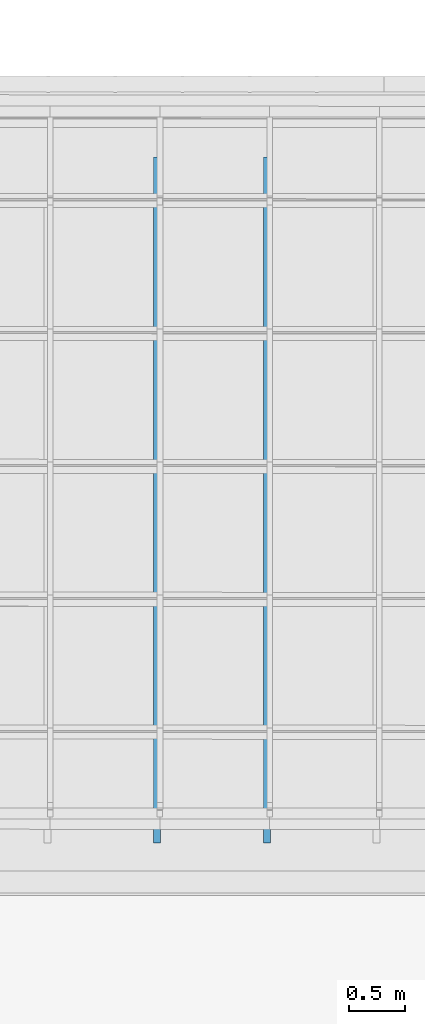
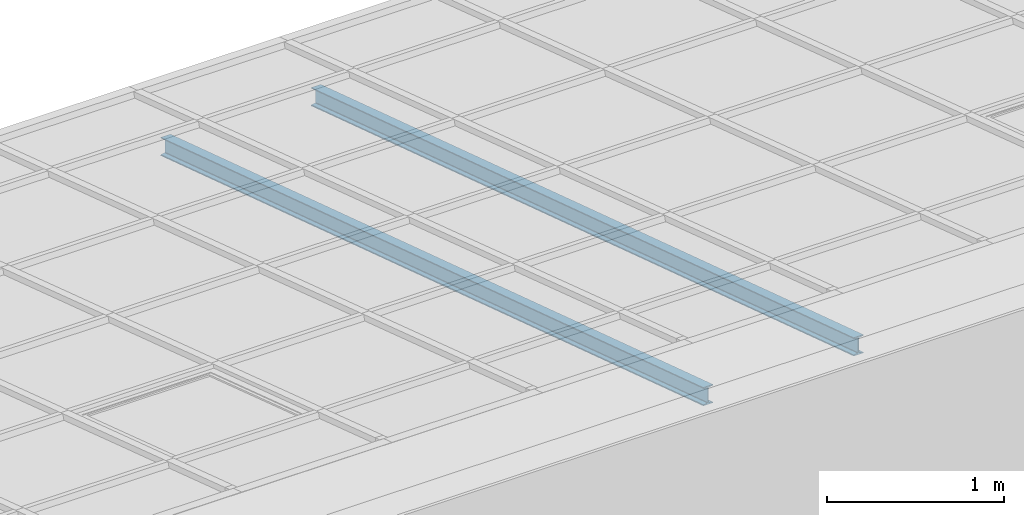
# One storey, part 6 of 47: 2 beams.
"""IFC2X3 building model written with IfcOpenShell, lengths in millimetres."""

from ifc_helpers import new_model, entity, si_unit, converted_unit, derived_unit, money_unit, point, direction, frame, frame_2d, origin_with_axes, place, context, subcontext, project, spatial, polyline, circle_curve, parameter, trimmed, segment, composite_curve, outline, extrude, clip, halfspace, material, type_object, element, save


model = new_model("IFC2X3")

# Units and contexts
model_context = context("Model", 3, precision=1e-05, world=origin_with_axes(), true_north=direction((0.0, 1.0)))
body_context = subcontext(model_context, "Body", "Model", "MODEL_VIEW")
ifc_project = project(units=[si_unit("LENGTHUNIT", "METRE", prefix="MILLI"), si_unit("AREAUNIT", "SQUARE_METRE"), si_unit("VOLUMEUNIT", "CUBIC_METRE"), converted_unit("PLANEANGLEUNIT", "DEGREE", entity("IfcPlaneAngleMeasure", 0.0174532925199), si_unit("PLANEANGLEUNIT", "RADIAN"), dimensions=[0, 0, 0, 0, 0, 0, 0]), si_unit("SOLIDANGLEUNIT", "STERADIAN"), money_unit("EUR"), converted_unit("TIMEUNIT", "Year", entity("IfcTimeMeasure", 31556926.0), si_unit("TIMEUNIT", "SECOND"), dimensions=[0, 0, 1, 0, 0, 0, 0]), si_unit("MASSUNIT", "GRAM", prefix="KILO"), si_unit("THERMODYNAMICTEMPERATUREUNIT", "DEGREE_CELSIUS"), si_unit("LUMINOUSINTENSITYUNIT", "LUMEN"), si_unit("ENERGYUNIT", "JOULE", prefix="MEGA"), derived_unit("THERMALCONDUCTANCEUNIT", [(si_unit("POWERUNIT", "WATT"), 1), (si_unit("LENGTHUNIT", "METRE"), -1), (si_unit("THERMODYNAMICTEMPERATUREUNIT", "KELVIN"), -1)]), derived_unit("SPECIFICHEATCAPACITYUNIT", [(si_unit("ENERGYUNIT", "JOULE"), 1), (si_unit("MASSUNIT", "GRAM", prefix="KILO"), -1), (si_unit("THERMODYNAMICTEMPERATUREUNIT", "KELVIN"), -1)]), derived_unit("MASSDENSITYUNIT", [(si_unit("MASSUNIT", "GRAM", prefix="KILO"), 1), (si_unit("VOLUMEUNIT", "CUBIC_METRE"), -1)])], contexts=[model_context])

# Site, building, storey
site_placement = place(None, origin_with_axes())
site = spatial("IfcSite", under=ifc_project, at=site_placement, Name="Site", CompositionType="ELEMENT")
building_placement = place(site_placement, origin_with_axes())
building = spatial("IfcBuilding", under=site, at=building_placement, Name="Building", CompositionType="ELEMENT")
storey_placement = place(building_placement, frame((0.0, 0.0, 6000.0), z_axis=(0.0, 0.0, 1.0), x_axis=(1.0, 0.0, 0.0)))
storey = spatial("IfcBuildingStorey", under=building, at=storey_placement, Name="KATUSEPLAAN", CompositionType="ELEMENT", Elevation=6000.0)

# Beams
ifc_material = material(Name="Teras (1)")
beam_type = type_object("IfcBeamType", Name="IPE 120", PredefinedType="NOTDEFINED")
beam_1_placement = place(storey_placement, frame((75043.081763, 46947.8063411, 711.763952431), z_axis=(0.0, 0.0, 1.0), x_axis=(-1.0, 0.0, 0.0)))
element("IfcBeam", 1, at=beam_1_placement, inside=storey, type_object=beam_type, material=ifc_material, Name="I Joist - Steel", ObjectType="I Joist - Steel 64 x 120", context=body_context, shape_type="Clipping", body=[
    clip(clip(extrude(outline(composite_curve([segment(polyline([(32.0018479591, -120.000212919), (32.0018479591, -117.505222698)]), True, "CONTINUOUS"), segment(trimmed(circle_curve(frame_2d((27.3321376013, -117.498683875), x_axis=(0.999999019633, -0.00140026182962)), 4.66971493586), [point((32.0018479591, -117.505222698)), parameter(0.0)], [point((31.7461003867, -115.974488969)), parameter(19.1306436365)], True, "CARTESIAN"), True, "CONTINUOUS"), segment(trimmed(circle_curve(frame_2d((27.8471066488, -117.309508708), x_axis=(0.94607823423, 0.323938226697)), 4.12121703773), [point((31.7461003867, -115.974488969)), parameter(0.0)], [point((31.017792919, -114.676795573)), parameter(20.802576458)], True, "CARTESIAN"), True, "CONTINUOUS"), segment(trimmed(circle_curve(frame_2d((28.4090653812, -116.837495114), x_axis=(0.770140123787, 0.637874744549)), 3.38734141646), [point((31.017792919, -114.676795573)), parameter(0.0)], [point((29.9278037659, -113.809704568)), parameter(23.7281511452)], True, "CARTESIAN"), True, "CONTINUOUS"), segment(trimmed(circle_curve(frame_2d((28.6333599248, -116.404648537), x_axis=(0.446378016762, 0.89484449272)), 2.89988259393), [point((29.9278037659, -113.809704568)), parameter(0.0)], [point((29.1110817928, -113.544386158)), parameter(17.0295027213)], True, "CARTESIAN"), True, "CONTINUOUS"), segment(polyline([(29.1110817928, -113.544386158), (5.24260801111, -109.566039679)]), True, "CONTINUOUS"), segment(trimmed(circle_curve(frame_2d((5.72032987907, -106.7057773), x_axis=(-0.446378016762, -0.89484449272)), 2.89988259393), [point((5.24260801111, -109.566039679)), parameter(17.0295027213)], [point((4.42588603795, -109.300721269)), parameter(0.0)], False, "CARTESIAN"), True, "CONTINUOUS"), segment(trimmed(circle_curve(frame_2d((5.94462442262, -106.272930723), x_axis=(-0.770140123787, -0.637874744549)), 3.38734141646), [point((4.42588603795, -109.300721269)), parameter(23.7281511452)], [point((3.33589688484, -108.433630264)), parameter(0.0)], False, "CARTESIAN"), True, "CONTINUOUS"), segment(trimmed(circle_curve(frame_2d((6.5065831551, -105.800917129), x_axis=(-0.94607823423, -0.323938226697)), 4.12121703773), [point((3.33589688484, -108.433630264)), parameter(20.802576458)], [point((2.60758941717, -107.135936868)), parameter(0.0)], False, "CARTESIAN"), True, "CONTINUOUS"), segment(trimmed(circle_curve(frame_2d((7.02155220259, -105.611741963), x_axis=(-0.999999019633, 0.00140026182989)), 4.66971493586), [point((2.60758941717, -107.135936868)), parameter(19.1306436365)], [point((2.35184184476, -105.605203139)), parameter(0.0)], False, "CARTESIAN"), True, "CONTINUOUS"), segment(polyline([(2.35184184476, -105.605203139), (2.35184184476, -14.3950097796)]), True, "CONTINUOUS"), segment(trimmed(circle_curve(frame_2d((7.02155220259, -14.3884709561), x_axis=(-0.945231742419, 0.326399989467)), 4.66971493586), [point((2.35184184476, -14.3950097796)), parameter(19.1306436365)], [point((2.60758941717, -12.8642760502)), parameter(0.0)], False, "CARTESIAN"), True, "CONTINUOUS"), segment(trimmed(circle_curve(frame_2d((6.5065831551, -14.1992957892), x_axis=(-0.769356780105, 0.638819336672)), 4.12121703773), [point((2.60758941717, -12.8642760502)), parameter(20.802576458)], [point((3.33589688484, -11.5665826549)), parameter(0.0)], False, "CARTESIAN"), True, "CONTINUOUS"), segment(trimmed(circle_curve(frame_2d((5.94462442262, -13.7272821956), x_axis=(-0.44835704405, 0.893854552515)), 3.38734141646), [point((3.33589688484, -11.5665826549)), parameter(23.7281511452)], [point((4.42588603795, -10.6994916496)), parameter(0.0)], False, "CARTESIAN"), True, "CONTINUOUS"), segment(trimmed(circle_curve(frame_2d((5.72032987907, -13.2944356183), x_axis=(-0.164738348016, 0.986337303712)), 2.89988259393), [point((4.42588603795, -10.6994916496)), parameter(17.0295027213)], [point((5.24260801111, -10.4341732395)), parameter(0.0)], False, "CARTESIAN"), True, "CONTINUOUS"), segment(polyline([(5.24260801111, -10.4341732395), (29.1110817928, -6.45582676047)]), True, "CONTINUOUS"), segment(trimmed(circle_curve(frame_2d((28.6333599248, -3.59556438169), x_axis=(0.164738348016, -0.986337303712)), 2.89988259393), [point((29.1110817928, -6.45582676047)), parameter(0.0)], [point((29.9278037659, -6.19050835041)), parameter(17.0295027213)], True, "CARTESIAN"), True, "CONTINUOUS"), segment(trimmed(circle_curve(frame_2d((28.4090653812, -3.16271780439), x_axis=(0.44835704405, -0.893854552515)), 3.38734141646), [point((29.9278037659, -6.19050835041)), parameter(0.0)], [point((31.017792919, -5.32341734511)), parameter(23.7281511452)], True, "CARTESIAN"), True, "CONTINUOUS"), segment(trimmed(circle_curve(frame_2d((27.8471066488, -2.69070421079), x_axis=(0.769356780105, -0.638819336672)), 4.12121703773), [point((31.017792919, -5.32341734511)), parameter(0.0)], [point((31.7461003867, -4.02572394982)), parameter(20.802576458)], True, "CARTESIAN"), True, "CONTINUOUS"), segment(trimmed(circle_curve(frame_2d((27.3321376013, -2.50152904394), x_axis=(0.945231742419, -0.326399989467)), 4.66971493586), [point((31.7461003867, -4.02572394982)), parameter(0.0)], [point((32.0018479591, -2.49499022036)), parameter(19.1306436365)], True, "CARTESIAN"), True, "CONTINUOUS"), segment(polyline([(32.0018479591, -2.49499022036), (32.0018479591, 0.0), (-32.0018479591, 0.0), (-32.0018479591, -2.49499022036)]), True, "CONTINUOUS"), segment(trimmed(circle_curve(frame_2d((-27.3321376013, -2.50152904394), x_axis=(-0.999999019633, 0.00140026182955)), 4.66971493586), [point((-32.0018479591, -2.49499022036)), parameter(0.0)], [point((-31.7461003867, -4.02572394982)), parameter(19.1306436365)], True, "CARTESIAN"), True, "CONTINUOUS"), segment(trimmed(circle_curve(frame_2d((-27.8471066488, -2.69070421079), x_axis=(-0.94607823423, -0.323938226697)), 4.12121703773), [point((-31.7461003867, -4.02572394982)), parameter(0.0)], [point((-31.017792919, -5.32341734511)), parameter(20.802576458)], True, "CARTESIAN"), True, "CONTINUOUS"), segment(trimmed(circle_curve(frame_2d((-28.4090653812, -3.16271780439), x_axis=(-0.770140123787, -0.637874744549)), 3.38734141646), [point((-31.017792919, -5.32341734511)), parameter(0.0)], [point((-29.9278037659, -6.19050835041)), parameter(23.7281511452)], True, "CARTESIAN"), True, "CONTINUOUS"), segment(trimmed(circle_curve(frame_2d((-28.6333599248, -3.59556438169), x_axis=(-0.446378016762, -0.89484449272)), 2.89988259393), [point((-29.9278037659, -6.19050835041)), parameter(0.0)], [point((-29.1110817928, -6.45582676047)), parameter(17.0295027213)], True, "CARTESIAN"), True, "CONTINUOUS"), segment(polyline([(-29.1110817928, -6.45582676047), (-5.24260801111, -10.4341732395)]), True, "CONTINUOUS"), segment(trimmed(circle_curve(frame_2d((-5.72032987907, -13.2944356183), x_axis=(0.446378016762, 0.89484449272)), 2.89988259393), [point((-5.24260801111, -10.4341732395)), parameter(17.0295027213)], [point((-4.42588603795, -10.6994916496)), parameter(0.0)], False, "CARTESIAN"), True, "CONTINUOUS"), segment(trimmed(circle_curve(frame_2d((-5.94462442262, -13.7272821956), x_axis=(0.770140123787, 0.637874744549)), 3.38734141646), [point((-4.42588603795, -10.6994916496)), parameter(23.7281511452)], [point((-3.33589688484, -11.5665826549)), parameter(0.0)], False, "CARTESIAN"), True, "CONTINUOUS"), segment(trimmed(circle_curve(frame_2d((-6.5065831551, -14.1992957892), x_axis=(0.94607823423, 0.323938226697)), 4.12121703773), [point((-3.33589688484, -11.5665826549)), parameter(20.802576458)], [point((-2.60758941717, -12.8642760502)), parameter(0.0)], False, "CARTESIAN"), True, "CONTINUOUS"), segment(trimmed(circle_curve(frame_2d((-7.02155220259, -14.3884709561), x_axis=(0.999999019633, -0.00140026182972)), 4.66971493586), [point((-2.60758941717, -12.8642760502)), parameter(19.1306436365)], [point((-2.35184184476, -14.3950097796)), parameter(0.0)], False, "CARTESIAN"), True, "CONTINUOUS"), segment(polyline([(-2.35184184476, -14.3950097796), (-2.35184184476, -105.605203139)]), True, "CONTINUOUS"), segment(trimmed(circle_curve(frame_2d((-7.02155220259, -105.611741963), x_axis=(0.945231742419, -0.326399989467)), 4.66971493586), [point((-2.35184184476, -105.605203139)), parameter(19.1306436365)], [point((-2.60758941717, -107.135936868)), parameter(0.0)], False, "CARTESIAN"), True, "CONTINUOUS"), segment(trimmed(circle_curve(frame_2d((-6.5065831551, -105.800917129), x_axis=(0.769356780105, -0.638819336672)), 4.12121703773), [point((-2.60758941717, -107.135936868)), parameter(20.802576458)], [point((-3.33589688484, -108.433630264)), parameter(0.0)], False, "CARTESIAN"), True, "CONTINUOUS"), segment(trimmed(circle_curve(frame_2d((-5.94462442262, -106.272930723), x_axis=(0.44835704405, -0.893854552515)), 3.38734141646), [point((-3.33589688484, -108.433630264)), parameter(23.7281511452)], [point((-4.42588603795, -109.300721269)), parameter(0.0)], False, "CARTESIAN"), True, "CONTINUOUS"), segment(trimmed(circle_curve(frame_2d((-5.72032987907, -106.7057773), x_axis=(0.164738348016, -0.986337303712)), 2.89988259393), [point((-4.42588603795, -109.300721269)), parameter(17.0295027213)], [point((-5.24260801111, -109.566039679)), parameter(0.0)], False, "CARTESIAN"), True, "CONTINUOUS"), segment(polyline([(-5.24260801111, -109.566039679), (-29.1110817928, -113.544386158)]), True, "CONTINUOUS"), segment(trimmed(circle_curve(frame_2d((-28.6333599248, -116.404648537), x_axis=(-0.164738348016, 0.986337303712)), 2.89988259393), [point((-29.1110817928, -113.544386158)), parameter(0.0)], [point((-29.9278037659, -113.809704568)), parameter(17.0295027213)], True, "CARTESIAN"), True, "CONTINUOUS"), segment(trimmed(circle_curve(frame_2d((-28.4090653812, -116.837495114), x_axis=(-0.44835704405, 0.893854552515)), 3.38734141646), [point((-29.9278037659, -113.809704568)), parameter(0.0)], [point((-31.017792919, -114.676795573)), parameter(23.7281511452)], True, "CARTESIAN"), True, "CONTINUOUS"), segment(trimmed(circle_curve(frame_2d((-27.8471066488, -117.309508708), x_axis=(-0.769356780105, 0.638819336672)), 4.12121703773), [point((-31.017792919, -114.676795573)), parameter(0.0)], [point((-31.7461003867, -115.974488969)), parameter(20.802576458)], True, "CARTESIAN"), True, "CONTINUOUS"), segment(trimmed(circle_curve(frame_2d((-27.3321376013, -117.498683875), x_axis=(-0.945231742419, 0.326399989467)), 4.66971493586), [point((-31.7461003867, -115.974488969)), parameter(0.0)], [point((-32.0018479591, -117.505222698)), parameter(19.1306436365)], True, "CARTESIAN"), True, "CONTINUOUS"), segment(polyline([(-32.0018479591, -117.505222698), (-32.0018479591, -120.000212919), (32.0018479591, -120.000212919)]), True, "CONTINUOUS")], self_intersect=False)), frame((0.0, 6177.44201598, 2007.17258333), z_axis=(0.0, 0.951056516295, 0.309016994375), x_axis=(-1.0, 0.0, 0.0)), (0.0, 0.0, -1.0), 6550.487721), halfspace(frame((0.0, 6125.0, 0.0), z_axis=(0.0, -1.0, 0.0), x_axis=(0.0, 0.0, -1.0)), True)), halfspace(frame((0.0, 0.0, 0.0), z_axis=(0.0, 1.0, 0.0), x_axis=(0.0, 0.0, 1.0)), True)),
])
beam_2_placement = place(storey_placement, frame((74063.081763, 46947.8063411, 711.763952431), z_axis=(0.0, 0.0, 1.0), x_axis=(-1.0, 0.0, 0.0)))
element("IfcBeam", 2, at=beam_2_placement, inside=storey, type_object=beam_type, material=ifc_material, Name="I Joist - Steel", ObjectType="I Joist - Steel 64 x 120", context=body_context, shape_type="Clipping", body=[
    clip(clip(extrude(outline(composite_curve([segment(polyline([(32.0018479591, -120.000212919), (32.0018479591, -117.505222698)]), True, "CONTINUOUS"), segment(trimmed(circle_curve(frame_2d((27.3321376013, -117.498683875), x_axis=(0.999999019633, -0.00140026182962)), 4.66971493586), [point((32.0018479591, -117.505222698)), parameter(0.0)], [point((31.7461003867, -115.974488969)), parameter(19.1306436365)], True, "CARTESIAN"), True, "CONTINUOUS"), segment(trimmed(circle_curve(frame_2d((27.8471066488, -117.309508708), x_axis=(0.94607823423, 0.323938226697)), 4.12121703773), [point((31.7461003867, -115.974488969)), parameter(0.0)], [point((31.017792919, -114.676795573)), parameter(20.802576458)], True, "CARTESIAN"), True, "CONTINUOUS"), segment(trimmed(circle_curve(frame_2d((28.4090653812, -116.837495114), x_axis=(0.770140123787, 0.637874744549)), 3.38734141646), [point((31.017792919, -114.676795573)), parameter(0.0)], [point((29.9278037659, -113.809704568)), parameter(23.7281511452)], True, "CARTESIAN"), True, "CONTINUOUS"), segment(trimmed(circle_curve(frame_2d((28.6333599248, -116.404648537), x_axis=(0.446378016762, 0.89484449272)), 2.89988259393), [point((29.9278037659, -113.809704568)), parameter(0.0)], [point((29.1110817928, -113.544386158)), parameter(17.0295027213)], True, "CARTESIAN"), True, "CONTINUOUS"), segment(polyline([(29.1110817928, -113.544386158), (5.24260801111, -109.566039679)]), True, "CONTINUOUS"), segment(trimmed(circle_curve(frame_2d((5.72032987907, -106.7057773), x_axis=(-0.446378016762, -0.89484449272)), 2.89988259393), [point((5.24260801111, -109.566039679)), parameter(17.0295027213)], [point((4.42588603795, -109.300721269)), parameter(0.0)], False, "CARTESIAN"), True, "CONTINUOUS"), segment(trimmed(circle_curve(frame_2d((5.94462442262, -106.272930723), x_axis=(-0.770140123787, -0.637874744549)), 3.38734141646), [point((4.42588603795, -109.300721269)), parameter(23.7281511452)], [point((3.33589688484, -108.433630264)), parameter(0.0)], False, "CARTESIAN"), True, "CONTINUOUS"), segment(trimmed(circle_curve(frame_2d((6.5065831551, -105.800917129), x_axis=(-0.94607823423, -0.323938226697)), 4.12121703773), [point((3.33589688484, -108.433630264)), parameter(20.802576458)], [point((2.60758941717, -107.135936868)), parameter(0.0)], False, "CARTESIAN"), True, "CONTINUOUS"), segment(trimmed(circle_curve(frame_2d((7.02155220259, -105.611741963), x_axis=(-0.999999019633, 0.00140026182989)), 4.66971493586), [point((2.60758941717, -107.135936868)), parameter(19.1306436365)], [point((2.35184184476, -105.605203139)), parameter(0.0)], False, "CARTESIAN"), True, "CONTINUOUS"), segment(polyline([(2.35184184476, -105.605203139), (2.35184184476, -14.3950097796)]), True, "CONTINUOUS"), segment(trimmed(circle_curve(frame_2d((7.02155220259, -14.3884709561), x_axis=(-0.945231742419, 0.326399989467)), 4.66971493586), [point((2.35184184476, -14.3950097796)), parameter(19.1306436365)], [point((2.60758941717, -12.8642760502)), parameter(0.0)], False, "CARTESIAN"), True, "CONTINUOUS"), segment(trimmed(circle_curve(frame_2d((6.5065831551, -14.1992957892), x_axis=(-0.769356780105, 0.638819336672)), 4.12121703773), [point((2.60758941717, -12.8642760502)), parameter(20.802576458)], [point((3.33589688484, -11.5665826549)), parameter(0.0)], False, "CARTESIAN"), True, "CONTINUOUS"), segment(trimmed(circle_curve(frame_2d((5.94462442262, -13.7272821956), x_axis=(-0.44835704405, 0.893854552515)), 3.38734141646), [point((3.33589688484, -11.5665826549)), parameter(23.7281511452)], [point((4.42588603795, -10.6994916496)), parameter(0.0)], False, "CARTESIAN"), True, "CONTINUOUS"), segment(trimmed(circle_curve(frame_2d((5.72032987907, -13.2944356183), x_axis=(-0.164738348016, 0.986337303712)), 2.89988259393), [point((4.42588603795, -10.6994916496)), parameter(17.0295027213)], [point((5.24260801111, -10.4341732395)), parameter(0.0)], False, "CARTESIAN"), True, "CONTINUOUS"), segment(polyline([(5.24260801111, -10.4341732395), (29.1110817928, -6.45582676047)]), True, "CONTINUOUS"), segment(trimmed(circle_curve(frame_2d((28.6333599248, -3.59556438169), x_axis=(0.164738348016, -0.986337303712)), 2.89988259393), [point((29.1110817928, -6.45582676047)), parameter(0.0)], [point((29.9278037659, -6.19050835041)), parameter(17.0295027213)], True, "CARTESIAN"), True, "CONTINUOUS"), segment(trimmed(circle_curve(frame_2d((28.4090653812, -3.16271780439), x_axis=(0.44835704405, -0.893854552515)), 3.38734141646), [point((29.9278037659, -6.19050835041)), parameter(0.0)], [point((31.017792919, -5.32341734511)), parameter(23.7281511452)], True, "CARTESIAN"), True, "CONTINUOUS"), segment(trimmed(circle_curve(frame_2d((27.8471066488, -2.69070421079), x_axis=(0.769356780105, -0.638819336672)), 4.12121703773), [point((31.017792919, -5.32341734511)), parameter(0.0)], [point((31.7461003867, -4.02572394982)), parameter(20.802576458)], True, "CARTESIAN"), True, "CONTINUOUS"), segment(trimmed(circle_curve(frame_2d((27.3321376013, -2.50152904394), x_axis=(0.945231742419, -0.326399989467)), 4.66971493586), [point((31.7461003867, -4.02572394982)), parameter(0.0)], [point((32.0018479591, -2.49499022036)), parameter(19.1306436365)], True, "CARTESIAN"), True, "CONTINUOUS"), segment(polyline([(32.0018479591, -2.49499022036), (32.0018479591, 0.0), (-32.0018479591, 0.0), (-32.0018479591, -2.49499022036)]), True, "CONTINUOUS"), segment(trimmed(circle_curve(frame_2d((-27.3321376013, -2.50152904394), x_axis=(-0.999999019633, 0.00140026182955)), 4.66971493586), [point((-32.0018479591, -2.49499022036)), parameter(0.0)], [point((-31.7461003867, -4.02572394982)), parameter(19.1306436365)], True, "CARTESIAN"), True, "CONTINUOUS"), segment(trimmed(circle_curve(frame_2d((-27.8471066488, -2.69070421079), x_axis=(-0.94607823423, -0.323938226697)), 4.12121703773), [point((-31.7461003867, -4.02572394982)), parameter(0.0)], [point((-31.017792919, -5.32341734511)), parameter(20.802576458)], True, "CARTESIAN"), True, "CONTINUOUS"), segment(trimmed(circle_curve(frame_2d((-28.4090653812, -3.16271780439), x_axis=(-0.770140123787, -0.637874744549)), 3.38734141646), [point((-31.017792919, -5.32341734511)), parameter(0.0)], [point((-29.9278037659, -6.19050835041)), parameter(23.7281511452)], True, "CARTESIAN"), True, "CONTINUOUS"), segment(trimmed(circle_curve(frame_2d((-28.6333599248, -3.59556438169), x_axis=(-0.446378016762, -0.89484449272)), 2.89988259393), [point((-29.9278037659, -6.19050835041)), parameter(0.0)], [point((-29.1110817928, -6.45582676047)), parameter(17.0295027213)], True, "CARTESIAN"), True, "CONTINUOUS"), segment(polyline([(-29.1110817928, -6.45582676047), (-5.24260801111, -10.4341732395)]), True, "CONTINUOUS"), segment(trimmed(circle_curve(frame_2d((-5.72032987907, -13.2944356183), x_axis=(0.446378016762, 0.89484449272)), 2.89988259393), [point((-5.24260801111, -10.4341732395)), parameter(17.0295027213)], [point((-4.42588603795, -10.6994916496)), parameter(0.0)], False, "CARTESIAN"), True, "CONTINUOUS"), segment(trimmed(circle_curve(frame_2d((-5.94462442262, -13.7272821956), x_axis=(0.770140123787, 0.637874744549)), 3.38734141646), [point((-4.42588603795, -10.6994916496)), parameter(23.7281511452)], [point((-3.33589688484, -11.5665826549)), parameter(0.0)], False, "CARTESIAN"), True, "CONTINUOUS"), segment(trimmed(circle_curve(frame_2d((-6.5065831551, -14.1992957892), x_axis=(0.94607823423, 0.323938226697)), 4.12121703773), [point((-3.33589688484, -11.5665826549)), parameter(20.802576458)], [point((-2.60758941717, -12.8642760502)), parameter(0.0)], False, "CARTESIAN"), True, "CONTINUOUS"), segment(trimmed(circle_curve(frame_2d((-7.02155220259, -14.3884709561), x_axis=(0.999999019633, -0.00140026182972)), 4.66971493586), [point((-2.60758941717, -12.8642760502)), parameter(19.1306436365)], [point((-2.35184184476, -14.3950097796)), parameter(0.0)], False, "CARTESIAN"), True, "CONTINUOUS"), segment(polyline([(-2.35184184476, -14.3950097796), (-2.35184184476, -105.605203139)]), True, "CONTINUOUS"), segment(trimmed(circle_curve(frame_2d((-7.02155220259, -105.611741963), x_axis=(0.945231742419, -0.326399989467)), 4.66971493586), [point((-2.35184184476, -105.605203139)), parameter(19.1306436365)], [point((-2.60758941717, -107.135936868)), parameter(0.0)], False, "CARTESIAN"), True, "CONTINUOUS"), segment(trimmed(circle_curve(frame_2d((-6.5065831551, -105.800917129), x_axis=(0.769356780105, -0.638819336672)), 4.12121703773), [point((-2.60758941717, -107.135936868)), parameter(20.802576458)], [point((-3.33589688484, -108.433630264)), parameter(0.0)], False, "CARTESIAN"), True, "CONTINUOUS"), segment(trimmed(circle_curve(frame_2d((-5.94462442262, -106.272930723), x_axis=(0.44835704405, -0.893854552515)), 3.38734141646), [point((-3.33589688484, -108.433630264)), parameter(23.7281511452)], [point((-4.42588603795, -109.300721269)), parameter(0.0)], False, "CARTESIAN"), True, "CONTINUOUS"), segment(trimmed(circle_curve(frame_2d((-5.72032987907, -106.7057773), x_axis=(0.164738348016, -0.986337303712)), 2.89988259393), [point((-4.42588603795, -109.300721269)), parameter(17.0295027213)], [point((-5.24260801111, -109.566039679)), parameter(0.0)], False, "CARTESIAN"), True, "CONTINUOUS"), segment(polyline([(-5.24260801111, -109.566039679), (-29.1110817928, -113.544386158)]), True, "CONTINUOUS"), segment(trimmed(circle_curve(frame_2d((-28.6333599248, -116.404648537), x_axis=(-0.164738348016, 0.986337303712)), 2.89988259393), [point((-29.1110817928, -113.544386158)), parameter(0.0)], [point((-29.9278037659, -113.809704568)), parameter(17.0295027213)], True, "CARTESIAN"), True, "CONTINUOUS"), segment(trimmed(circle_curve(frame_2d((-28.4090653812, -116.837495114), x_axis=(-0.44835704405, 0.893854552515)), 3.38734141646), [point((-29.9278037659, -113.809704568)), parameter(0.0)], [point((-31.017792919, -114.676795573)), parameter(23.7281511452)], True, "CARTESIAN"), True, "CONTINUOUS"), segment(trimmed(circle_curve(frame_2d((-27.8471066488, -117.309508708), x_axis=(-0.769356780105, 0.638819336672)), 4.12121703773), [point((-31.017792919, -114.676795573)), parameter(0.0)], [point((-31.7461003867, -115.974488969)), parameter(20.802576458)], True, "CARTESIAN"), True, "CONTINUOUS"), segment(trimmed(circle_curve(frame_2d((-27.3321376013, -117.498683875), x_axis=(-0.945231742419, 0.326399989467)), 4.66971493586), [point((-31.7461003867, -115.974488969)), parameter(0.0)], [point((-32.0018479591, -117.505222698)), parameter(19.1306436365)], True, "CARTESIAN"), True, "CONTINUOUS"), segment(polyline([(-32.0018479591, -117.505222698), (-32.0018479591, -120.000212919), (32.0018479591, -120.000212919)]), True, "CONTINUOUS")], self_intersect=False)), frame((0.0, 6177.44201598, 2007.17258333), z_axis=(0.0, 0.951056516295, 0.309016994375), x_axis=(-1.0, 0.0, 0.0)), (0.0, 0.0, -1.0), 6550.487721), halfspace(frame((0.0, 6125.0, 0.0), z_axis=(0.0, -1.0, 0.0), x_axis=(0.0, 0.0, -1.0)), True)), halfspace(frame((0.0, 0.0, 0.0), z_axis=(0.0, 1.0, 0.0), x_axis=(0.0, 0.0, 1.0)), True)),
])

save(model, "model.ifc")
